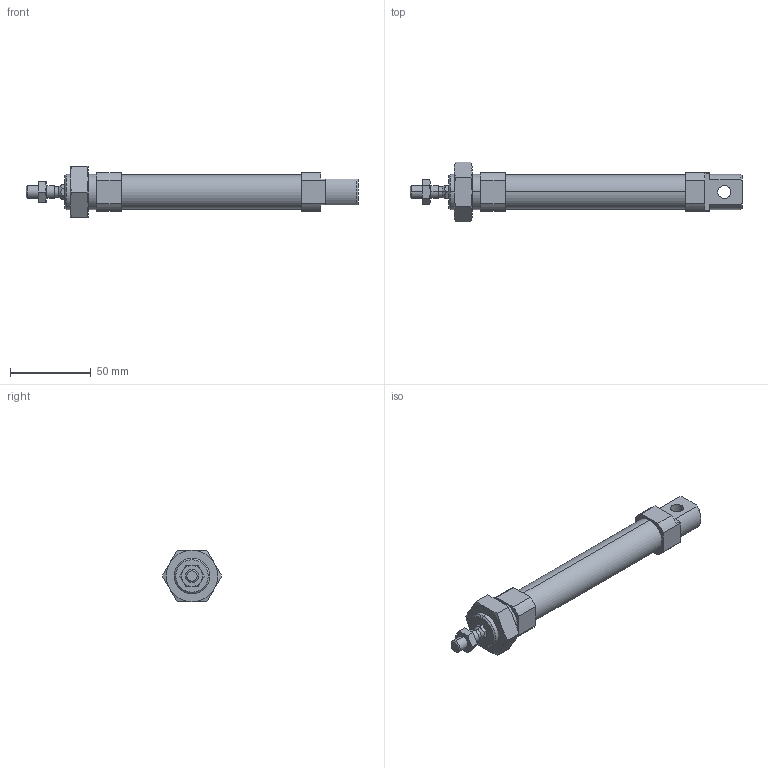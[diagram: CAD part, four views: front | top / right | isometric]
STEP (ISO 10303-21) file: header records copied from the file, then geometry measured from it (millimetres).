
FILE_DESCRIPTION (( 'STEP AP203' ), '1' );
FILE_NAME ('CSMK20-80.STEP', '2020-04-02T10:47:47', ( '' ), ( '' ), 'SwSTEP 2.0', 'SolidWorks 2019', '' );
FILE_SCHEMA (( 'CONFIG_CONTROL_DESIGN' ));
Length unit declared in the file: millimetre
Products named in the file (1): CSMK20-80
Bounding box: 206 x 36.95 x 32 mm (x, y, z)
Volume: 56327.3 mm3; surface area: 29945 mm2
Topology: 4 solids, 4 shells, 133 faces, 306 edges, 187 vertices
Faces by surface type: plane 53, cone 48, cylinder 32
Entity records: 4251 total; most frequent: CARTESIAN_POINT 1191, DIRECTION 626, ORIENTED_EDGE 608, EDGE_CURVE 304, AXIS2_PLACEMENT_3D 246, VERTEX_POINT 187, EDGE_LOOP 149, VECTOR 134
